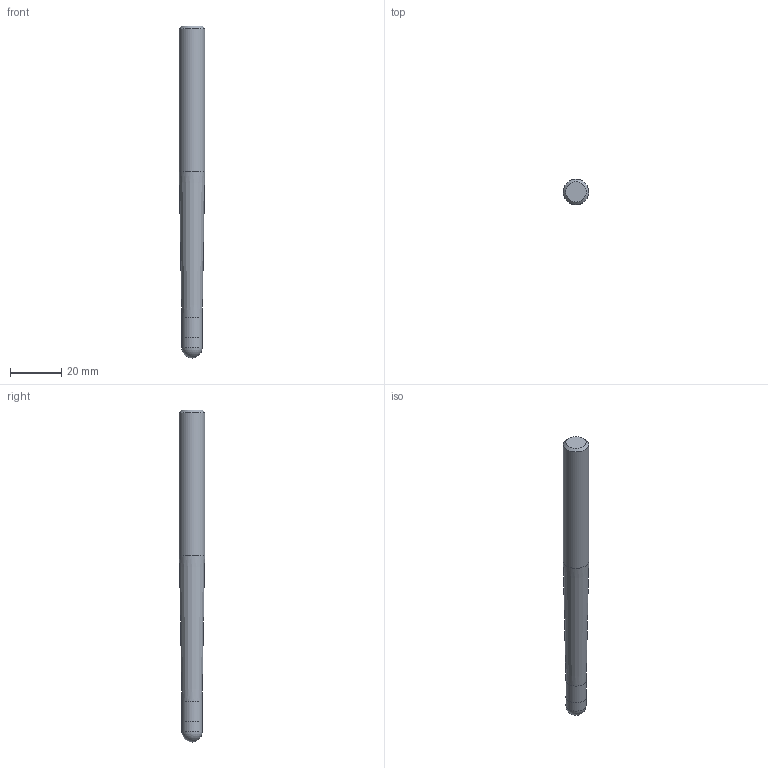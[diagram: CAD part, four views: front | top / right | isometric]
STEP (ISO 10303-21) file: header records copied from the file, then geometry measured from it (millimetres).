
FILE_DESCRIPTION((''),'2;1');
FILE_NAME('C:\Users\nsx150\AppData\Local\Temp\Mastercam 2021\SNAKH10GOD\TEMP.step','2021-10-21T13:34:04',(''),(''),'STEP Write','Mastercam 2021 ... CNC Software, Inc.','');
FILE_SCHEMA(('AUTOMOTIVE_DESIGN'));
Length unit declared in the file: millimetre
Products named in the file (1): None
Bounding box: 10 x 10 x 130 mm (x, y, z)
Volume: 8827.7 mm3; surface area: 3960.9 mm2
Topology: 2 solids, 2 shells, 9 faces, 14 edges, 8 vertices
Faces by surface type: plane 3, cylinder 3, cone 2, sphere 1
Full cylindrical faces by diameter (mm): 7.98 x1, 8 x1, 10 x1
Entity records: 211 total; most frequent: DIRECTION 36, CARTESIAN_POINT 25, AXIS2_PLACEMENT_3D 18, ORIENTED_EDGE 14, EDGE_LOOP 14, STYLED_ITEM 12, ADVANCED_FACE 9, FACE_BOUND 8
